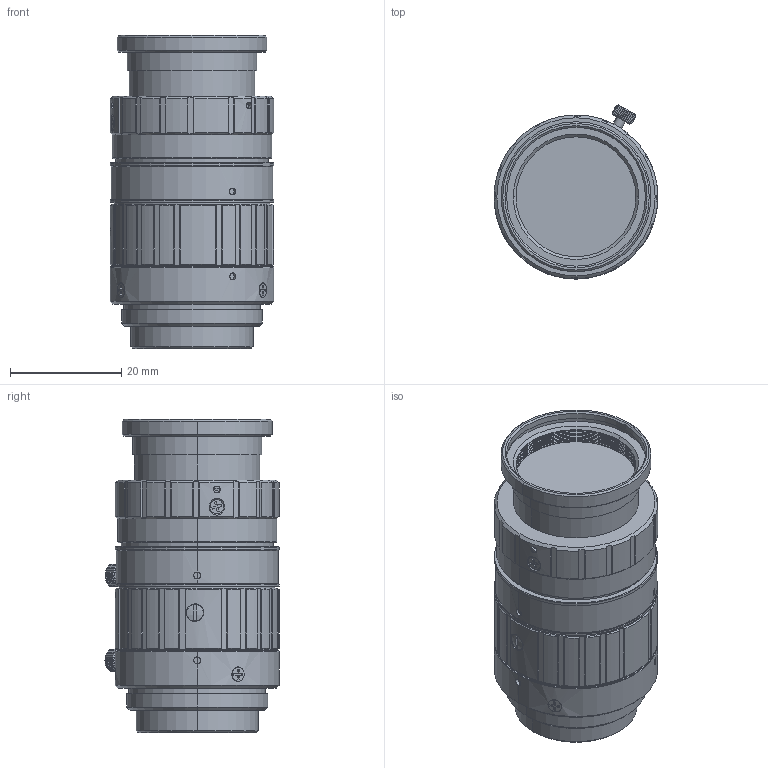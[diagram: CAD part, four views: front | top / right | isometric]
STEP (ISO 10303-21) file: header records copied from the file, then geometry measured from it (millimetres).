
FILE_DESCRIPTION (( 'STEP AP214' ), '1' );
FILE_NAME ('HF35XA-5M_3D_Modeling_20170120_ver1.0.STEP', '2017-01-20T06:49:45', ( '富士フイルム株式会社' ), ( '富士フイルム株式会社' ), 'SwSTEP 2.0', 'SolidWorks 2014', '' );
FILE_SCHEMA (( 'AUTOMOTIVE_DESIGN' ));
Length unit declared in the file: millimetre
Products named in the file (1): HF35XA-5M_3D_Modeling_20170120_ver1.0
Bounding box: 29.5 x 31.37 x 56.42 mm (x, y, z)
Volume: 28818.7 mm3; surface area: 8847.8 mm2
Topology: 1 solids, 2 shells, 615 faces, 1591 edges, 1020 vertices
Faces by surface type: plane 326, cone 150, cylinder 137, bspline 2
Entity records: 26481 total; most frequent: CARTESIAN_POINT 5526, ORIENTED_EDGE 3178, DIRECTION 2612, EDGE_CURVE 1589, VERTEX_POINT 1020, AXIS2_PLACEMENT_3D 994, EDGE_LOOP 659, VECTOR 624
